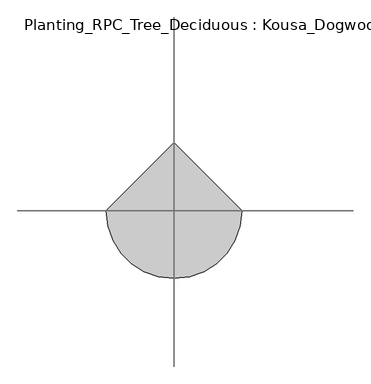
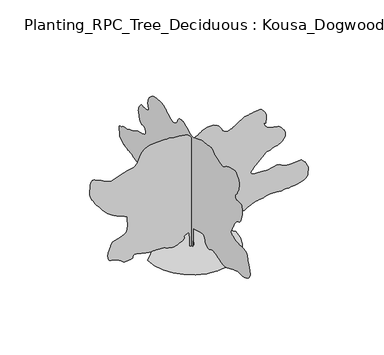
"""IFC4 building model written with IfcOpenShell, lengths in millimetres: geographic element geometry, Planting_RPC_Tree_Deciduous : Kousa_Dogwood-3.0_Meters."""

from ifc_helpers import new_model, si_unit, origin, place, context, project, spatial, triangles, source, transform, mapped, element, save


def planting_rpc_tree_deciduous_kousa_dogwood_3_0_meters_e0625334(model_context):
    return source(origin(), model_context, "Body", "Tessellation", [
        triangles([(0.0321152, 48.5607305, 0.0034119), (0.0321152, -50.059231, 0.0034119), (0.0321152, -56.2224767, 326.6823853), (0.0321152, -56.2224767, 468.4473149), (0.0321152, -179.4974194, 505.4297959), (0.0321152, -382.8998477, 573.2297636), (0.0321152, -481.5198092, 585.5572815), (0.0321152, -493.3798047, 574.9372539), (0.0321152, -505.079781, 563.9947895), (0.0321152, -516.4547771, 552.4022922), (0.0321152, -527.3447737, 539.8422667), (0.0321152, -537.5872808, 525.9872984), (0.0321152, -547.022279, 510.5148053), (0.0321152, -555.4847712, 493.1023144), (0.0321152, -561.4697619, 475.007307), (0.0321152, -564.8647582, 457.7723125), (0.0321152, -567.614772, 441.509824), (0.0321152, -571.6572578, 426.3248134), (0.0321152, -578.9372641, 412.3273393), (0.0321152, -591.3897743, 399.6223372), (0.0321152, -610.9597281, 388.3173586), (0.0321152, -633.9972754, 377.894848), (0.0321152, -655.6322193, 368.3348574), (0.0321152, -675.9747276, 360.4998705), (0.0321152, -695.1297358, 355.2548418), (0.0321152, -713.2071934, 353.4573498), (0.0321152, -730.3171955, 355.9723489), (0.0321152, -746.5597361, 363.6648663), (0.0321152, -762.949724, 373.6898357), (0.0321152, -780.3097109, 382.7473497), (0.0321152, -798.4772066, 390.9973549), (0.0321152, -817.2921919, 398.597327), (0.0321152, -836.5896332, 405.7148432), (0.0321152, -856.2146708, 412.5073428), (0.0321152, -875.999655, 419.137316), (0.0321152, -993.1095852, 400.6448401), (0.0321152, -1024.8096125, 390.0973372), (0.0321152, -1056.5095671, 379.6573494), (0.0321152, -1088.2070509, 369.4323558), (0.0321152, -1119.9070782, 359.5298716), (0.0321152, -1151.6070328, 350.0598464), (0.0321152, -1183.3045166, 341.1298682), (0.0321152, -1215.0045439, 332.8448725), (0.0321152, -1247.7819763, 324.7573574), (0.0321152, -1282.4994793, 317.2098893), (0.0321152, -1318.8344707, 311.4973746), (0.0321152, -1356.4644413, 308.9098872), (0.0321152, -1395.0644108, 310.7423698), (0.0321152, -1434.3118698, 318.2898743), (0.0321152, -1473.8818382, 332.8448725), (0.0321152, -1769.7418316, 456.1198334), (0.0321152, -1791.6092468, 465.9673064), (0.0321152, -1811.1067486, 474.5198004), (0.0321152, -1830.3892925, 481.9973236), (0.0321152, -1851.611689, 488.6098197), (0.0321152, -1876.9318005, 494.5747899), (0.0321152, -1908.5067627, 500.1098082), (0.0321152, -1948.4892059, 505.4297959), (0.0321152, -1993.2716469, 509.077284), (0.0321152, -2037.2967213, 510.4597941), (0.0321152, -2079.8141842, 511.0898066), (0.0321152, -2120.0666691, 512.4747874), (0.0321152, -2157.3016056, 516.1222755), (0.0321152, -2190.7616272, 523.5422805), (0.0321152, -2219.6915474, 536.2472826), (0.0321152, -2247.0266521, 550.8047879), (0.0321152, -2275.3291397, 563.6347824), (0.0321152, -2303.3066471, 576.0347523), (0.0321152, -2329.6691368, 589.2947714), (0.0321152, -2353.1216297, 604.7147604), (0.0321152, -2372.3665306, 623.5822861), (0.0321152, -2386.1140926, 647.1947256), (0.0321152, -2397.2190834, 669.6572353), (0.0321152, -2408.5415028, 686.5147093), (0.0321152, -2418.7840462, 701.2122133), (0.0321152, -2426.65406, 717.2072399), (0.0321152, -2430.8590359, 737.9447096), (0.0321152, -2430.1039948, 766.8771732), (0.0321152, -2423.0965736, 807.4521675), (0.0321152, -2412.5114639, 849.5371714), (0.0321152, -2401.8190933, 882.9996637), (0.0321152, -2390.9114742, 911.2846378), (0.0321152, -2379.6814911, 937.8421011), (0.0321152, -2368.0191216, 966.1271479), (0.0321152, -2355.8165234, 999.5895676), (0.0321152, -2342.9690517, 1041.6745714), (0.0321152, -2331.7716248, 1086.8520464), (0.0321152, -2322.0866055, 1126.8520758), (0.0321152, -2310.1366081, 1161.0320389), (0.0321152, -2292.1490433, 1188.7420481), (0.0321152, -2264.3491413, 1209.3345411), (0.0321152, -2222.9641674, 1222.1644993), (0.0321152, -2164.2192066, 1226.5870491), (0.0321152, -2098.4666794, 1226.6770145), (0.0321152, -2038.2142525, 1227.3044472), (0.0321152, -1982.9192265, 1229.0120464), (0.0321152, -1932.0467503, 1232.3369888), (0.0321152, -1885.0542698, 1237.8170322), (0.0321152, -1841.4043179, 1245.9944401), (0.0321152, -1800.5592819, 1257.4044994), (0.0321152, -1760.9542866, 1269.0494282), (0.0321152, -1722.9643089, 1278.862056), (0.0321152, -1688.9643494, 1288.7794739), (0.0321152, -1661.3267921, 1300.7495281), (0.0321152, -1642.4218414, 1316.7069843), (0.0321152, -1634.6243523, 1338.5944565), (0.0321152, -1640.3019127, 1368.3519424), (0.0321152, -1650.8868771, 1395.324424), (0.0321152, -1657.8043327, 1411.2994663), (0.0321152, -1663.4292801, 1421.8844307), (0.0321152, -1670.131778, 1432.6844982), (0.0321152, -1680.2843559, 1449.3068848), (0.0321152, -1696.261869, 1477.3593876), (0.0321152, -1720.43176, 1522.4468971), (0.0321152, -1744.7792564, 1570.2993542), (0.0321152, -1762.0142509, 1605.6469059), (0.0321152, -1775.5817368, 1632.5843605), (0.0321152, -1788.931794, 1655.2092876), (0.0321152, -1805.5192989, 1677.6167862), (0.0321152, -1828.7892448, 1703.9067513), (0.0321152, -1862.1967987, 1738.1767525), (0.0321152, -1899.9867886, 1769.4617615), (0.0321152, -1934.3291691, 1788.456823), (0.0321152, -1965.5416534, 1801.7368263), (0.0321152, -1993.9516926, 1815.879277), (0.0321152, -2019.8841213, 1837.4618259), (0.0321152, -2043.6591236, 1873.0592171), (0.0321152, -2065.5992088, 1929.2517174), (0.0321152, -2083.3542297, 1999.8741508), (0.0321152, -2094.4241936, 2071.5741348), (0.0321152, -2098.9166519, 2140.1491642), (0.0321152, -2096.9391563, 2201.391647), (0.0321152, -2088.6017292, 2251.0966072), (0.0321152, -2074.0091606, 2285.0590691), (0.0321152, -2053.2716183, 2299.0765274), (0.0321152, -2028.7792179, 2300.9990845), (0.0321152, -2002.9916931, 2301.6291332), (0.0321152, -1976.1267632, 2301.1790154), (0.0321152, -1948.3992405, 2299.8665955), (0.0321152, -1920.0242283, 2297.9090115), (0.0321152, -1891.2193005, 2295.5190411), (0.0321152, -1862.1967987, 2292.9116421), (0.0321152, -1846.526825, 2300.944146), (0.0321152, -1831.9342564, 2309.6241394), (0.0321152, -1819.4992596, 2319.5991119), (0.0321152, -1810.2992397, 2331.5116116), (0.0321152, -1805.4117474, 2346.0140694), (0.0321152, -1805.914333, 2363.7490334), (0.0321152, -1812.8867271, 2385.36908), (0.0321152, -1823.1842091, 2405.136478), (0.0321152, -1833.371814, 2418.9715347), (0.0321152, -1844.1018276, 2430.0064716), (0.0321152, -1856.0143272, 2441.3640633), (0.0321152, -1869.7617439, 2456.1715897), (0.0321152, -1885.9892418, 2477.5540054), (0.0321152, -1905.3416943, 2508.6489098), (0.0321152, -1927.1592579, 2549.7490173), (0.0321152, -1948.5442898, 2597.4240143), (0.0321152, -1966.7992802, 2649.1990517), (0.0321152, -1979.2367477, 2702.5739914), (0.0321152, -1983.1542412, 2755.098983), (0.0321152, -1975.8567215, 2804.2988869), (0.0321152, -1954.6517658, 2847.6488571), (0.0321152, -1927.4992081, 2886.8737885), (0.0321152, -1902.7191799, 2923.7238647), (0.0321152, -1878.1542549, 2955.8489388), (0.0321152, -1851.6491867, 2980.8488663), (0.0321152, -1821.0442234, 2996.3487923), (0.0321152, -1784.1893509, 2999.9988602), (0.0321152, -1738.9217651, 2989.4239243), (0.0321152, -1692.8293751, 2973.9487061), (0.0321152, -1653.2043228, 2962.998793), (0.0321152, -1617.4618824, 2954.3237411), (0.0321152, -1583.0144211, 2945.6486893), (0.0321152, -1547.2718353, 2934.6987762), (0.0321152, -1507.6469284, 2919.2238487), (0.0321152, -1461.554393, 2896.9487549), (0.0321152, -1417.7968895, 2870.823896), (0.0321152, -1383.95942, 2846.4239319), (0.0321152, -1355.6194347, 2825.4737572), (0.0321152, -1328.3594707, 2809.698848), (0.0321152, -1297.7569782, 2800.8238083), (0.0321152, -1259.3920235, 2800.5738235), (0.0321152, -1208.841984, 2810.6737885), (0.0321152, -1151.1220333, 2827.7739075), (0.0321152, -1095.7745396, 2846.3989334), (0.0321152, -1045.1695616, 2864.9989609), (0.0321152, -1001.6820997, 2882.1237877), (0.0321152, -967.6821402, 2896.1988007), (0.0321152, -945.5421398, 2905.7737976), (0.0321152, -937.6370991, 2909.2738747), (0.0321152, -933.2696331, 2914.6738358), (0.0321152, -920.8171228, 2928.2738777), (0.0321152, -901.2471691, 2946.1489494), (0.0321152, -875.532169, 2964.4987015), (0.0321152, -844.642194, 2979.3736656), (0.0321152, -809.5471704, 2986.9237862), (0.0321152, -771.2146992, 2983.2487198), (0.0321152, -721.277195, 2972.4237991), (0.0321152, -656.2422112, 2961.4738861), (0.0321152, -584.4172711, 2951.0739395), (0.0321152, -514.0997972, 2941.8489212), (0.0321152, -453.5948058, 2934.47379), (0.0321152, -411.2023353, 2929.5487999), (0.0321152, -395.2273293, 2927.7739082), (0.0321152, -389.2073479, 2924.6238098), (0.0321152, -372.7298653, 2916.1987427), (0.0321152, -348.1648676, 2903.9989059), (0.0321152, -317.8848845, 2889.5489159), (0.0321152, -284.2623909, 2874.3239731), (0.0321152, -249.6706434, 2859.8489845), (0.0321152, -216.4799186, 2847.6488571), (0.0321152, -182.6961704, 2835.2237434), (0.0321152, -145.4621876, 2820.7737534), (0.0321152, -105.8562113, 2806.7237389), (0.0321152, -64.9562232, 2795.5988365), (0.0321152, -23.8407913, 2789.8738953), (0.0321152, 16.4121432, 2792.023764), (0.0321152, 54.724226, 2804.4988747), (0.0321152, 95.0672077, 2825.5987495), (0.0321152, 140.4776899, 2850.2489891), (0.0321152, 188.4756686, 2875.9988708), (0.0321152, 236.5816531, 2900.3238396), (0.0321152, 282.3148899, 2920.7737541), (0.0321152, 323.1973872, 2934.8487671), (0.0321152, 356.7473742, 2940.0987373), (0.0321152, 387.7448281, 2939.8987495), (0.0321152, 421.3323492, 2938.5238335), (0.0321152, 455.5648164, 2934.7737717), (0.0321152, 488.5048116, 2927.4489281), (0.0321152, 518.2072864, 2915.3987915), (0.0321152, 542.7372934, 2897.3987274), (0.0321152, 560.1497844, 2872.298806), (0.0321152, 571.7222611, 2845.0237267), (0.0321152, 581.032267, 2820.8737473), (0.0321152, 589.584761, 2799.1989075), (0.0321152, 598.8947668, 2779.3739548), (0.0321152, 610.4672436, 2760.6989319), (0.0321152, 625.8122372, 2742.5988739), (0.0321152, 646.4422279, 2724.3738235), (0.0321152, 671.2597538, 2707.0990059), (0.0321152, 697.802247, 2692.6490158), (0.0321152, 725.529697, 2681.5238228), (0.0321152, 753.9047092, 2674.2739746), (0.0321152, 782.3872004, 2671.4488564), (0.0321152, 810.4371597, 2673.5990158), (0.0321152, 837.5196636, 2681.2238411), (0.0321152, 865.1921751, 2693.0489914), (0.0321152, 895.1296646, 2707.1490028), (0.0321152, 926.9546116, 2723.1238998), (0.0321152, 960.2896408, 2740.598996), (0.0321152, 994.7570864, 2759.2240219), (0.0321152, 1029.9771023, 2778.5990021), (0.0321152, 1065.5771095, 2798.3489594), (0.0321152, 1088.2370636, 2814.0738716), (0.0321152, 1112.1370583, 2829.173822), (0.0321152, 1138.5170614, 2842.9738518), (0.0321152, 1168.617041, 2854.848999), (0.0321152, 1203.6770376, 2864.0987251), (0.0321152, 1244.9369465, 2870.1489372), (0.0321152, 1293.6344101, 2872.298806), (0.0321152, 1349.6844772, 2871.0988792), (0.0321152, 1409.9369041, 2867.1988266), (0.0321152, 1471.0519238, 2860.1739647), (0.0321152, 1529.689333, 2849.5987381), (0.0321152, 1582.5044231, 2835.0237556), (0.0321152, 1626.1519043, 2816.0237526), (0.0321152, 1657.2943348, 2792.1737549), (0.0321152, 1679.9917866, 2768.8240173), (0.0321152, 1700.7467697, 2750.1989914), (0.0321152, 1719.8842644, 2734.2738007), (0.0321152, 1737.7292507, 2718.9988609), (0.0321152, 1754.6017673, 2702.3240067), (0.0321152, 1770.8292652, 2682.1990723), (0.0321152, 1786.7342537, 2656.5738922), (0.0321152, 1800.3918503, 2627.8738998), (0.0321152, 1809.9517319, 2599.8238678), (0.0321152, 1815.8442501, 2572.2990944), (0.0321152, 1818.5042622, 2545.2240028), (0.0321152, 1818.361829, 2518.4738914), (0.0321152, 1815.8442501, 2491.9316162), (0.0321152, 1811.3892895, 2465.4966019), (0.0321152, 1804.2368191, 2441.5614349), (0.0321152, 1794.9292477, 2421.93647), (0.0321152, 1785.8343086, 2405.6565044), (0.0321152, 1779.3293278, 2391.7465977), (0.0321152, 1777.7842186, 2379.241547), (0.0321152, 1783.5718014, 2367.1640865), (0.0321152, 1799.0618443, 2354.5490135), (0.0321152, 1819.8892067, 2343.1016018), (0.0321152, 1840.3917343, 2334.6740639), (0.0321152, 1861.0042843, 2328.511504), (0.0321152, 1882.1543015, 2323.8565556), (0.0321152, 1904.2767883, 2319.9565029), (0.0321152, 1927.7991898, 2316.0565956), (0.0321152, 1953.1541828, 2311.404118), (0.0321152, 1979.1941631, 2310.0565258), (0.0321152, 2004.4766315, 2314.2065632), (0.0321152, 2029.006675, 2320.2990692), (0.0321152, 2052.7816772, 2324.7740868), (0.0321152, 2075.7991676, 2324.0715134), (0.0321152, 2098.064233, 2314.6390949), (0.0321152, 2119.5741119, 2292.9116421), (0.0321152, 2140.2241596, 2265.2015602), (0.0321152, 2159.4692059, 2239.5416439), (0.0321152, 2176.6665573, 2214.9591328), (0.0321152, 2191.1691605, 2190.4841732), (0.0321152, 2202.326619, 2165.1441502), (0.0321152, 2209.4966755, 2137.9741516), (0.0321152, 2212.0315498, 2107.9990917), (0.0321152, 2208.9766491, 2074.5041885), (0.0321152, 2200.421648, 2037.7741631), (0.0321152, 2187.286694, 1998.3467731), (0.0321152, 2170.4840858, 1956.7642822), (0.0321152, 2150.9316456, 1913.5643028), (0.0321152, 2129.5490845, 1869.2867729), (0.0321152, 2107.2466667, 1824.469305), (0.0321152, 2067.8742153, 1829.4092651), (0.0321152, 2030.0117008, 1832.3042919), (0.0321152, 1995.1692055, 1831.0992783), (0.0321152, 1964.8517246, 1823.7492908), (0.0321152, 1940.5742821, 1808.2067802), (0.0321152, 1923.8441986, 1782.4192554), (0.0321152, 1916.1717018, 1744.3393124), (0.0321152, 1917.9141827, 1705.0943241), (0.0321152, 1927.8516575, 1675.6593475), (0.0321152, 1945.1216789, 1653.7718754), (0.0321152, 1968.8591835, 1637.1667843), (0.0321152, 1998.2041946, 1623.5818577), (0.0321152, 2032.2941196, 1610.7493561), (0.0321152, 2070.2641857, 1596.4093884), (0.0321152, 2106.9241573, 1584.1719086), (0.0321152, 2139.3791531, 1577.001852), (0.0321152, 2170.2141895, 1571.6668579), (0.0321152, 2202.0215504, 1564.9268623), (0.0321152, 2237.3865429, 1553.5518299), (0.0321152, 2278.8966545, 1534.306929), (0.0321152, 2329.1415527, 1503.9544212), (0.0321152, 2383.0889866, 1471.1769161), (0.0321152, 2433.9089951, 1445.5168545), (0.0321152, 2481.4915558, 1425.0294422), (0.0321152, 2525.7240303, 1407.7794777), (0.0321152, 2566.5238655, 1391.8218761), (0.0321152, 2603.7489189, 1375.2169304), (0.0321152, 2637.3239044, 1356.0244972), (0.0321152, 2670.0739403, 1339.9419033), (0.0321152, 2704.5488708, 1331.5145107), (0.0321152, 2740.1990204, 1327.0745201), (0.0321152, 2776.4988396, 1322.9595097), (0.0321152, 2812.8989433, 1315.5019707), (0.0321152, 2848.8737823, 1301.0370106), (0.0321152, 2883.8739716, 1275.8969753), (0.0321152, 2917.2239708, 1253.1644966), (0.0321152, 2947.6738564, 1243.4770065), (0.0321152, 2973.7987152, 1239.5070454), (0.0321152, 2994.223922, 1233.9169796), (0.0321152, 3007.5236916, 1219.3794949), (0.0321152, 3012.2986908, 1188.5620445), (0.0321152, 3007.1487144, 1134.1295385), (0.0321152, 3000.7738129, 1075.6195925), (0.0321152, 2999.8988663, 1034.3596109), (0.0321152, 3000.198848, 1005.7171005), (0.0321152, 2997.3737297, 985.049612), (0.0321152, 2987.123774, 967.7271229), (0.0321152, 2965.0989555, 949.1096546), (0.0321152, 2927.023954, 924.5646412), (0.0321152, 2887.2487656, 900.7171143), (0.0321152, 2859.3237259, 885.497113), (0.0321152, 2837.74888, 876.2071278), (0.0321152, 2817.0489807, 870.1496487), (0.0321152, 2791.6987839, 864.6321802), (0.0321152, 2756.2489128, 856.9596834), (0.0321152, 2705.1238358, 844.4346485), (0.0321152, 2648.9490669, 832.3046476), (0.0321152, 2600.4988266, 825.8897049), (0.0321152, 2557.7991074, 822.6021875), (0.0321152, 2518.7488747, 819.8521374), (0.0321152, 2481.3116249, 815.0546831), (0.0321152, 2443.4491104, 805.6196486), (0.0321152, 2403.1065147, 788.9621624), (0.0321152, 2353.7965885, 769.6621777), (0.0321152, 2293.9216095, 753.8122004), (0.0321152, 2228.7616333, 741.0897211), (0.0321152, 2163.6016571, 731.1696871), (0.0321152, 2103.7266781, 723.7297342), (0.0321152, 2054.4166065, 718.4472078), (0.0321152, 2020.9567303, 714.9972004), (0.0321152, 1997.8292175, 712.9122259), (0.0321152, 1975.5641521, 711.1496881), (0.0321152, 1953.5141899, 708.5272465), (0.0321152, 1931.0341667, 703.8547119), (0.0321152, 1907.4742676, 695.9472004), (0.0321152, 1882.1917992, 683.6197552), (0.0321152, 1854.5343304, 665.6872015), (0.0321152, 1828.8017441, 646.4947683), (0.0321152, 1807.9217686, 629.8897499), (0.0321152, 1789.194278, 613.932221), (0.0321152, 1769.9317909, 596.6822565), (0.0321152, 1747.4318562, 576.1947716), (0.0321152, 1719.0043762, 550.5347826), (0.0321152, 1681.9493706, 517.7572775), (0.0321152, 1650.1068375, 485.9673211), (0.0321152, 1634.0068027, 462.6973025), (0.0321152, 1625.991885, 445.139835), (0.0321152, 1618.4068829, 430.494835), (0.0321152, 1603.6018272, 415.9573503), (0.0321152, 1573.9143951, 398.7223557), (0.0321152, 1521.691856, 375.9923478), (0.0321152, 1461.9594555, 353.7623457), (0.0321152, 1412.9019848, 338.5423808), (0.0321152, 1371.6069763, 328.2798532), (0.0321152, 1335.1644333, 320.9298657), (0.0321152, 1300.6620335, 314.4448691), (0.0321152, 1265.1894894, 306.7698652), (0.0321152, 1225.8344788, 295.8623733), (0.0321152, 1191.2045431, 285.4223855), (0.0321152, 1167.682069, 279.5098831), (0.0321152, 1149.0120604, 276.6173816), (0.0321152, 1128.939521, 275.2323825), (0.0321152, 1101.212071, 273.8498906), (0.0321152, 1059.5745689, 270.9573891), (0.0321152, 997.7746347, 265.0448866), (0.0321152, 934.502116, 258.197394), (0.0321152, 888.5896568, 253.2924063), (0.0321152, 853.9971462, 250.0024), (0.0321152, 824.687162, 248.0084084), (0.0321152, 794.6246801, 246.9841431), (0.0321152, 757.7671915, 246.6066589), (0.0321152, 708.0797447, 246.5526469), (0.0321152, 660.1722038, 246.9301493), (0.0321152, 628.2222645, 248.0621478), (0.0321152, 605.5422535, 249.9494054), (0.0321152, 585.4522734, 252.5899056), (0.0321152, 561.2647599, 255.9873908), (0.0321152, 526.2948014, 260.1373919), (0.0321152, 473.8573045, 265.0448866), (0.0321152, 415.5448391, 270.9923979), (0.0321152, 366.6123608, 277.9098899), (0.0321152, 325.8748764, 285.2598773), (0.0321152, 292.1448858, 292.5023858), (0.0321152, 264.237396, 299.0973866), (0.0321152, 240.9663963, 304.5073761), (0.0321152, 221.1454041, 308.189873), (0.0321152, 201.9351668, 312.0898893), (0.0321152, 181.431422, 318.2523766), (0.0321152, 159.8491819, 326.3048647), (0.0321152, 137.4046944, 335.8648553), (0.0321152, 114.3129534, 346.5573712), (0.0321152, 90.7902159, 358.0023485), (0.0321152, 67.0517212, 369.8273535), (0.0321152, 30.0694877, 314.3548674), (45.1947341, 0.000153, 0.0), (-47.2612322, 0.000153, 0.0), (-47.2612322, 0.0001391, 228.0581544), (-65.7527225, 0.0001298, 369.8248464), (-189.0271793, 0.0001344, 302.0223716), (-184.0854206, 0.0001344, 286.1373855), (-181.1921742, 0.0001391, 270.0348982), (-182.3961705, 0.0001391, 253.5048934), (-189.7459218, 0.0001391, 236.3244013), (-205.2901764, 0.0001391, 218.2824067), (-231.0771562, 0.0001391, 199.1621711), (-269.154901, 0.0001437, 178.7481737), (-307.0898675, 0.0001437, 161.1374391), (-333.3798689, 0.0001437, 149.5646898), (-351.4773471, 0.0001437, 142.5206975), (-364.827368, 0.0001437, 138.4951983), (-376.8873513, 0.0001437, 135.9796996), (-391.0998559, 0.0001437, 133.4636922), (-410.9223378, 0.0001437, 129.4384473), (-433.0423176, 0.0001437, 125.9342008), (-452.7923112, 0.0001437, 125.5566984), (-471.5697988, 0.0001437, 127.6594498), (-490.7798181, 0.0001437, 131.5946929), (-511.8222836, 0.0001437, 136.716446), (-536.1022696, 0.0001437, 142.3769472), (-565.0147854, 0.0001437, 147.9294426), (-591.0347815, 0.0001437, 153.8776896), (-608.6472602, 0.0001437, 160.7961808), (-622.2672501, 0.0001437, 168.1461864), (-636.3197353, 0.0001437, 175.3879319), (-655.2247587, 0.0001437, 181.9829327), (-683.4022539, 0.0001437, 187.391923), (-725.2722273, 0.0001437, 191.0756734), (-766.9621971, 0.0001437, 193.3399248), (-795.3921478, 0.0001437, 194.8491713), (-816.1646444, 0.0001437, 195.6044304), (-834.8896643, 0.0001437, 195.6039217), (-857.1721704, 0.0001437, 194.8494256), (-888.6196695, 0.0001437, 193.3399248), (-934.8395954, 0.0001437, 191.0756734), (-986.0895922, 0.0001437, 190.8779202), (-1030.1170647, 0.0001437, 194.7774279), (-1068.7520611, 0.0001391, 201.588422), (-1103.8295712, 0.0001391, 210.1239112), (-1137.1820412, 0.0001391, 219.1989205), (-1170.6420628, 0.0001391, 227.6269126), (-1206.044553, 0.0001391, 234.2219134), (-1242.1820274, 0.0001391, 241.0504028), (-1276.2694817, 0.0001391, 249.6041503), (-1307.7719193, 0.0001391, 257.8348979), (-1336.1469315, 0.0001391, 263.6923892), (-1360.854435, 0.0001391, 265.1298923), (-1381.3594334, 0.0001391, 260.0998941), (-1397.1193726, 0.0001391, 246.5491588), (-1406.1569023, 0.0001391, 228.8306545), (-1409.8044994, 0.0001391, 212.7294208), (-1412.4819523, 0.0001391, 198.3536631), (-1418.6094852, 0.0001437, 185.8104243), (-1432.6093575, 0.0001437, 175.208437), (-1458.8994678, 0.0001437, 166.6544352), (-1501.9019302, 0.0001437, 160.2571876), (-1547.4019146, 0.0001437, 155.854186), (-1580.6118061, 0.0001437, 153.71569), (-1605.086911, 0.0001437, 154.5966864), (-1624.3868958, 0.0001437, 159.2506901), (-1642.069392, 0.0001437, 168.4334327), (-1661.6918861, 0.0001437, 182.8994283), (-1686.8143353, 0.0001391, 203.4031732), (-1714.2017624, 0.0001391, 224.6974039), (-1739.1067829, 0.0001391, 241.6791617), (-1762.8268467, 0.0001391, 255.3198988), (-1786.6567875, 0.0001391, 266.5848907), (-1811.8867882, 0.0001344, 276.4523844), (-1839.8118279, 0.0001344, 285.8848937), (-1871.7267403, 0.0001344, 295.8598844), (-1904.1442383, 0.0001344, 304.2498701), (-1932.574189, 0.0001344, 310.1623907), (-1956.796693, 0.0001344, 316.3998734), (-1976.5992634, 0.0001344, 325.7623833), (-1991.7666515, 0.0001344, 341.0548728), (-2002.0817196, 0.0001298, 365.0798598), (-2007.3292191, 0.0001298, 400.642333), (-2009.4667339, 0.0001252, 439.4223424), (-2010.0966373, 0.0001252, 472.3798147), (-2008.4617081, 0.0001252, 501.2397901), (-2003.8067596, 0.0001205, 527.7272721), (-1995.3792217, 0.0001205, 553.5672647), (-1982.4217278, 0.0001205, 580.4872785), (-1964.1817074, 0.0001159, 610.2097738), (-1949.5917549, 0.0001159, 639.8072405), (-1944.056773, 0.0001113, 665.84475), (-1941.5391941, 0.0001113, 689.2946995), (-1936.0042122, 0.0001113, 711.1297039), (-1921.4142597, 0.0001113, 732.3172188), (-1891.7266823, 0.0001066, 753.8271704), (-1840.9068192, 0.0001066, 776.6297029), (-1777.9392963, 0.0001066, 797.8696856), (-1717.5618771, 0.0001066, 815.9846409), (-1662.3568165, 0.000102, 833.8821676), (-1614.9168343, 0.000102, 854.4771315), (-1577.8268017, 0.000102, 880.6771311), (-1553.6743515, 9.74e-05, 915.3946341), (-1545.0494419, 9.74e-05, 961.542108), (-1543.4319534, 9.27e-05, 1005.7846109), (-1539.6568932, 9.27e-05, 1036.2270842), (-1535.3443657, 8.81e-05, 1057.9345528), (-1532.1093887, 8.81e-05, 1075.9745853), (-1531.5719215, 8.81e-05, 1095.4195467), (-1535.3443657, 8.81e-05, 1121.3320639), (-1545.0494419, 8.34e-05, 1158.7820309), (-1552.0394222, 8.34e-05, 1197.3995138), (-1550.4043476, 7.88e-05, 1225.451944), (-1545.8569508, 7.88e-05, 1245.9544716), (-1544.1143246, 7.88e-05, 1261.9295139), (-1550.8893471, 7.88e-05, 1276.3969448), (-1571.894315, 7.42e-05, 1292.3719872), (-1612.8493732, 7.42e-05, 1312.8745148), (-1663.2192638, 7.42e-05, 1334.9595039), (-1709.3843239, 7.42e-05, 1354.4570057), (-1752.4218132, 6.95e-05, 1372.5544476), (-1793.4117531, 6.95e-05, 1390.4344608), (-1833.431694, 6.95e-05, 1409.284473), (-1873.5591866, 6.95e-05, 1430.2919117), (-1914.8717812, 6.49e-05, 1454.6418789), (-1954.7667297, 6.49e-05, 1480.589423), (-1990.9941696, 6.49e-05, 1506.7543957), (-2025.1742054, 6.03e-05, 1534.8593662), (-2058.9217094, 6.03e-05, 1566.6293747), (-2093.8541702, 5.56e-05, 1603.7917866), (-2131.5916924, 5.56e-05, 1648.0717873), (-2173.7491482, 5.1e-05, 1701.1893299), (-2212.079076, 5.1e-05, 1748.4168251), (-2239.6291386, 4.64e-05, 1778.6042267), (-2259.95159, 4.64e-05, 1798.8768265), (-2276.6091488, 4.64e-05, 1816.3417488), (-2293.1590107, 4.17e-05, 1838.1218147), (-2313.1615688, 4.17e-05, 1871.3317062), (-2340.1690773, 3.71e-05, 1923.0842159), (-2369.5866131, 3.71e-05, 1974.4617485), (-2394.369112, 3.25e-05, 2008.0467625), (-2414.404081, 3.25e-05, 2033.2241501), (-2429.5890553, 3.25e-05, 2059.3692112), (-2439.8141579, 2.78e-05, 2095.8666927), (-2444.9714012, 2.32e-05, 2152.0940746), (-2444.9539604, 1.85e-05, 2237.4340691), (-2440.4065636, 1.39e-05, 2329.0465004), (-2431.9790257, 9.3e-06, 2398.9865627), (-2419.5614697, 9.3e-06, 2448.9790054), (-2403.0464893, 4.6e-06, 2480.7488686), (-2382.3290039, 4.6e-06, 2496.024099), (-2357.2965202, 4.6e-06, 2496.5263939), (-2327.8441029, 4.6e-06, 2483.9841362), (-2296.1790298, 4.6e-06, 2467.2014397), (-2264.7315308, 4.6e-06, 2453.111602), (-2233.7165634, 9.3e-06, 2440.641433), (-2203.3466148, 9.3e-06, 2428.7090218), (-2173.8391136, 9.3e-06, 2416.2365273), (-2145.4116337, 9.3e-06, 2402.149015), (-2118.2766621, 9.3e-06, 2385.3639931), (-2092.0391647, 1.39e-05, 2368.6715527), (-2066.1266476, 1.39e-05, 2355.2116184), (-2040.4841721, 1.39e-05, 2344.4465778), (-2015.0566544, 1.39e-05, 2335.839109), (-1989.789156, 1.39e-05, 2328.8491287), (-1964.6316799, 1.39e-05, 2322.9365536), (-1939.5292877, 1.39e-05, 2317.5640617), (-1655.9942688, 9.3e-06, 2416.1840595), (-1606.9367981, 9.3e-06, 2430.3440964), (-1556.3693905, 9.3e-06, 2441.9166458), (-1506.5568787, 4.6e-06, 2452.0863739), (-1459.7619152, 4.6e-06, 2462.0439056), (-1418.2519489, 4.6e-06, 2472.9691109), (-1384.2894871, 4.6e-06, 2486.0514519), (-1360.1368916, 4.6e-06, 2502.473996), (-1342.0595066, 4.6e-06, 2521.7239838), (-1324.9519753, 0.0, 2542.47388), (-1309.029546, 0.0, 2564.7489738), (-1294.509502, 0.0, 2588.5239761), (-1281.6069466, -4.6e-06, 2613.7988869), (-1270.5394535, -4.6e-06, 2640.5989952), (-1261.5170391, -4.6e-06, 2668.899012), (-1252.17197, -9.3e-06, 2697.4990105), (-1240.346965, -9.3e-06, 2724.7737991), (-1226.5819622, -9.3e-06, 2750.2489883), (-1211.4170448, -1.39e-05, 2773.3490318), (-1195.3869913, -1.39e-05, 2793.5239632), (-1179.0345011, -1.39e-05, 2810.2488144), (-1162.8970413, -1.39e-05, 2822.9989082), (-1145.3595217, -1.39e-05, 2835.8739944), (-1123.7220343, -1.85e-05, 2852.0988762), (-1096.9120428, -1.85e-05, 2869.7239632), (-1063.8470552, -1.85e-05, 2886.8237915), (-1023.4495937, -1.85e-05, 2901.4237724), (-974.6421078, -1.85e-05, 2911.6237312), (-916.3471195, -1.85e-05, 2915.4487885), (-850.4696726, -1.85e-05, 2916.7487091), (-781.7871643, -2.32e-05, 2919.7488167), (-713.5371878, -2.32e-05, 2923.1988968), (-648.9522491, -2.32e-05, 2925.7987381), (-591.2697598, -2.32e-05, 2926.2237122), (-543.7197916, -2.32e-05, 2923.1988968), (-509.5422993, -1.85e-05, 2915.4487885), (-481.004797, -1.85e-05, 2906.6237457), (-448.8023294, -1.85e-05, 2900.6988167), (-413.797344, -1.85e-05, 2896.848761), (-376.8498536, -1.85e-05, 2894.1739243), (-338.824849, -1.85e-05, 2891.823777), (-300.5848866, -1.85e-05, 2888.923954), (-262.9923956, -1.85e-05, 2884.6239258), (-225.8116528, -1.85e-05, 2879.5489449), (-188.9551815, -1.85e-05, 2874.2739761), (-153.5001872, -1.85e-05, 2867.79879), (-120.5252014, -1.85e-05, 2859.173735), (-91.1082107, -1.85e-05, 2847.4238708), (-66.327474, -1.39e-05, 2831.5739662), (-47.2612322, -1.39e-05, 2810.6737885), (-31.5194878, -1.39e-05, 2787.7240265), (-16.4247435, -1.39e-05, 2766.8488472), (-2.6237239, -9.3e-06, 2748.5488014), (9.2364712, -9.3e-06, 2733.3988541), (18.5090174, -9.3e-06, 2721.8989746), (24.5469392, -9.3e-06, 2714.5988388), (26.7032393, -9.3e-06, 2712.0489944), (32.9569863, -9.3e-06, 2714.1738647), (49.5612281, -9.3e-06, 2720.0987938), (73.2819686, -9.3e-06, 2729.0238304), (100.8839584, -9.3e-06, 2740.2240189), (129.1329518, -9.3e-06, 2752.9238251), (154.7941853, -1.39e-05, 2766.3738762), (174.6331814, -1.39e-05, 2779.8489258), (195.6221801, -1.39e-05, 2795.3488518), (224.805664, -1.39e-05, 2814.0988701), (259.0573887, -1.39e-05, 2834.0238167), (295.2473854, -1.85e-05, 2853.0988152), (330.2548779, -1.85e-05, 2869.2489922), (360.9473722, -1.85e-05, 2880.4488899), (384.199841, -1.85e-05, 2884.6239258), (532.1298014, -1.85e-05, 2878.4737198), (558.4372799, -1.85e-05, 2865.2489456), (584.099776, -1.85e-05, 2851.8988884), (608.4672566, -1.39e-05, 2838.3488434), (630.8922323, -1.39e-05, 2824.4738182), (650.7322277, -1.39e-05, 2810.173819), (667.3372461, -1.39e-05, 2795.3238533), (680.0597254, -1.39e-05, 2779.8489258), (690.2672419, -1.39e-05, 2763.8240318), (699.8271961, -9.3e-06, 2747.473867), (708.8472124, -9.3e-06, 2730.8490097), (717.4372404, -9.3e-06, 2713.9988754), (725.7022156, -9.3e-06, 2696.999041), (733.7547037, -4.6e-06, 2679.898922), (741.6971695, -4.6e-06, 2662.7238075), (758.8571686, -4.6e-06, 2650.9239464), (775.9646999, -4.6e-06, 2639.5990562), (792.9646797, -4.6e-06, 2629.2488159), (809.8021694, -4.6e-06, 2620.3490685), (826.4247013, -4.6e-06, 2613.3989113), (842.7771915, -4.6e-06, 2608.8738968), (858.8071724, 0.0, 2607.248996), (876.1296616, -4.6e-06, 2608.7739029), (896.2571394, -4.6e-06, 2613.2989174), (918.9721046, -4.6e-06, 2620.8490379), (944.0571287, -4.6e-06, 2631.3989754), (971.2995792, -4.6e-06, 2644.9990173), (1000.4845711, -4.6e-06, 2661.5988762), (1031.3920595, -4.6e-06, 2681.2238411), (1066.8120632, -9.3e-06, 2705.2988251), (1107.9445816, -9.3e-06, 2733.4738495), (1152.2045254, -1.39e-05, 2763.0487885), (1197.0045525, -1.39e-05, 2791.3488052), (1239.7545593, -1.39e-05, 2815.6487755), (1277.8695293, -1.39e-05, 2833.248864), (1308.7595043, -1.85e-05, 2841.4739433), (1336.0744068, -1.85e-05, 2844.673748), (1365.0069431, -1.85e-05, 2848.8237854), (1395.2869263, -1.85e-05, 2853.773774), (1426.6444599, -1.85e-05, 2859.3737228), (1458.8093571, -1.85e-05, 2865.4739319), (1491.5143375, -1.85e-05, 2871.8738319), (1524.4918304, -1.85e-05, 2878.4737198), (1554.751902, -1.85e-05, 2882.298777), (1584.3143417, -1.85e-05, 2885.2988846), (1612.4719254, -1.85e-05, 2886.7237976), (1638.5293465, -1.85e-05, 2885.6988602), (1661.7818516, -1.85e-05, 2881.4238304), (1681.5318089, -1.85e-05, 2873.1237556), (1697.0743195, -1.85e-05, 2859.9739769), (1712.241853, -1.85e-05, 2841.9739128), (1730.1042801, -1.39e-05, 2820.0737961), (1748.8292999, -1.39e-05, 2794.9488762), (1766.5843208, -1.39e-05, 2767.2488228), (1781.5342804, -9.3e-06, 2737.5988884), (1791.8493484, -9.3e-06, 2706.6490334), (1795.6943172, -4.6e-06, 2675.0489273), (1795.1568501, -4.6e-06, 2644.7990295), (1793.6467678, -4.6e-06, 2617.1239746), (1791.3268513, 0.0, 2591.5990791), (1788.3617706, 0.0, 2567.8240768), (1784.9118359, 0.0, 2545.3239967), (1781.1392464, 4.6e-06, 2523.6738647), (1777.2043121, 4.6e-06, 2502.473996), (1764.1943504, 4.6e-06, 2507.4989799), (1752.3693455, 4.6e-06, 2511.0240555), (1742.9168701, 4.6e-06, 2511.524025), (1737.0217358, 4.6e-06, 2507.4989799), (1735.871806, 4.6e-06, 2497.4440704), (1740.6517467, 4.6e-06, 2479.8340988), (1752.5492764, 4.6e-06, 2453.1665405), (1769.3142414, 9.3e-06, 2424.4140804), (1787.0518215, 9.3e-06, 2401.2689816), (1804.4642761, 9.3e-06, 2383.2990028), (1820.2592422, 1.39e-05, 2370.0716125), (1833.1442116, 1.39e-05, 2361.1590752), (1841.824205, 1.39e-05, 2356.1265335), (1845.0042435, 1.39e-05, 2354.5465427), (1974.4441624, 1.39e-05, 2323.7266216), (2073.0641602, 1.39e-05, 2305.2366165), (2122.3740864, 1.85e-05, 2280.5815807), (2149.9216782, 1.85e-05, 2248.9715916), (2176.3366356, 2.32e-05, 2217.9015404), (2200.4890858, 2.32e-05, 2187.909185), (2221.2440689, 2.32e-05, 2159.5341728), (2237.4715668, 2.78e-05, 2133.3165871), (2248.0366196, 2.78e-05, 2109.7941856), (2251.8115345, 2.78e-05, 2089.5066158), (2251.524052, 2.78e-05, 2068.1941086), (2249.5115295, 3.25e-05, 2042.0291359), (2244.0490723, 3.25e-05, 2012.1991253), (2233.4116402, 3.71e-05, 1979.8891788), (2215.8715771, 3.71e-05, 1946.2842533), (2189.7066044, 3.71e-05, 1912.5717762), (2153.1916821, 4.17e-05, 1879.9393204), (2114.681678, 4.17e-05, 1854.7792282), (2082.1016899, 4.17e-05, 1840.1892757), (2053.0791882, 4.17e-05, 1832.3893158), (2025.2442593, 4.64e-05, 1827.6092297), (1996.2217575, 4.64e-05, 1822.0742477), (1963.6442402, 4.64e-05, 1812.0117805), (1925.1342361, 4.64e-05, 1793.6467678), (1889.0317886, 4.64e-05, 1776.5918495), (1862.7418236, 4.64e-05, 1769.6742485), (1842.4892807, 4.64e-05, 1767.9317677), (1824.5017159, 4.64e-05, 1766.4042446), (1805.0042141, 4.64e-05, 1760.1318077), (1780.2218605, 5.1e-05, 1744.1567654), (1746.3842457, 5.1e-05, 1713.5167751), (1481.3444641, 6.49e-05, 1460.8044388), (1461.8818439, 6.95e-05, 1433.2019085), (1444.5244732, 6.95e-05, 1406.4095032), (1431.3694622, 6.95e-05, 1381.234441), (1424.5243858, 7.42e-05, 1358.4819054), (1426.0869358, 7.42e-05, 1338.9669628), (1438.1619255, 7.42e-05, 1323.4945061), (1462.854459, 7.42e-05, 1312.8745148), (1495.0193562, 7.42e-05, 1306.9819965), (1528.4793777, 7.42e-05, 1304.2144329), (1563.7743164, 7.42e-05, 1303.1719093), (1601.4393139, 7.42e-05, 1302.4520405), (1642.0143082, 7.42e-05, 1300.6544758), (1686.0418533, 7.42e-05, 1296.379446), (1734.0568005, 7.42e-05, 1288.219479), (1788.6517239, 7.42e-05, 1285.9745579), (1850.0367851, 7.42e-05, 1295.9120327), (1915.1967613, 7.42e-05, 1311.3469917), (1981.1091625, 7.42e-05, 1325.596994), (2044.7592018, 7.42e-05, 1331.9769825), (2103.1267147, 7.42e-05, 1323.8019001), (2153.1916821, 7.42e-05, 1294.3845097), (2211.5940765, 7.88e-05, 1263.4945347), (2290.5915802, 7.88e-05, 1251.039481), (2380.5840523, 7.88e-05, 1250.5544815), (2471.979055, 7.88e-05, 1255.569437), (2555.1739769, 7.88e-05, 1259.6120682), (2620.5990532, 7.88e-05, 1256.2144558), (2658.6240578, 7.88e-05, 1238.9095528), (2678.2990196, 7.88e-05, 1215.9270166), (2695.2738556, 8.34e-05, 1198.4420374), (2709.8738365, 8.34e-05, 1184.4069929), (2722.448941, 8.34e-05, 1171.7745518), (2733.2738617, 8.34e-05, 1158.4945484), (2742.7238663, 8.34e-05, 1142.5195787), (2751.073938, 8.81e-05, 1121.7995499), (2759.9239792, 8.81e-05, 1100.8995901), (2769.8739532, 8.81e-05, 1083.6670664), (2779.6989349, 8.81e-05, 1066.9720825), (2788.223996, 9.27e-05, 1047.6896112), (2794.2989159, 9.27e-05, 1022.6946253), (2796.6737709, 9.27e-05, 988.8570831), (2794.2239204, 9.74e-05, 943.0521029), (2791.0988205, 0.000102, 894.8196545), (2788.9739502, 0.000102, 854.5671696), (2782.7487488, 0.000102, 820.4596584), (2767.3238182, 0.0001066, 790.6646748), (2737.6988823, 0.0001066, 763.3496996), (2688.7739616, 0.0001113, 736.682214), (2615.4740753, 0.0001113, 708.8296989), (2533.8991127, 0.0001113, 685.0372559), (2461.6840439, 0.0001113, 670.1947025), (2396.1640606, 0.0001159, 661.9272566), (2334.6365662, 0.0001159, 657.8672573), (2274.3991093, 0.0001159, 655.6372335), (2212.7615925, 0.0001159, 652.8697426), (2147.0266514, 0.0001159, 647.1922548), (2085.8042255, 0.0001159, 644.2622738), (2036.1167061, 0.0001159, 648.6647667), (1992.8966698, 0.0001159, 656.4097155), (1951.0817802, 0.0001113, 663.5097181), (1905.5992367, 0.0001113, 665.9697424), (1851.3842319, 0.0001159, 659.8072552), (1783.3667267, 0.0001159, 641.0272242), (1715.8542778, 0.0001159, 620.4522446), (1663.6517956, 0.0001159, 609.257252), (1622.4442818, 0.0001159, 603.9922754), (1587.9242958, 0.0001159, 601.207271), (1555.7768394, 0.0001159, 597.4497605), (1521.6869144, 0.0001159, 589.2747508), (1481.3444641, 0.0001205, 573.2272565), (1443.3569572, 0.0001205, 555.5272831), (1416.689399, 0.0001205, 543.3247939), (1397.5668743, 0.0001205, 534.5747829), (1382.2218807, 0.0001205, 527.2247955), (1366.8744164, 0.0001205, 519.2272822), (1347.7545078, 0.0001205, 508.5348026), (1321.0869495, 0.0001252, 493.0998073), (1295.0670261, 0.0001252, 477.717316), (1277.4570545, 0.0001252, 467.4023206), (1263.8344849, 0.0001252, 460.4298174), (1249.7819996, 0.0001252, 455.0748027), (1230.8770489, 0.0001252, 449.6123091), (1202.6995537, 0.0001252, 442.3148257), (1160.8295076, 0.0001252, 431.4623268), (895.7896534, 0.0001298, 382.1523643), (840.1546772, 0.0001298, 368.7823591), (796.3796602, 0.0001298, 359.7248451), (758.9647202, 0.0001298, 354.0098597), (722.4146982, 0.0001344, 350.6673675), (681.2272413, 0.0001344, 348.7273696), (629.9047199, 0.0001344, 347.21736), (562.947288, 0.0001344, 345.1698469), (488.7672956, 0.0001344, 343.2448554), (420.0873307, 0.0001344, 342.6173501), (357.874849, 0.0001344, 343.067359), (303.0998857, 0.0001344, 344.3773444), (256.7373995, 0.0001344, 346.3373629), (219.7556634, 0.0001344, 348.7273696), (193.1239314, 0.0001344, 351.3323705), (172.5304391, 0.0001298, 355.5923575), (152.907182, 0.0001298, 362.7623414), (134.092442, 0.0001298, 372.3573589), (115.924701, 0.0001298, 383.8948451), (98.2422138, 0.0001298, 396.8873297), (80.8829718, 0.0001298, 410.8498495), (63.6857248, 0.0001298, 425.2973325), (39.0307344, 0.0001252, 505.4247817), (26.7032393, 0.0001344, 289.69489), (-1057.7445934, 0.0, 0.0031152), (-1029.7795853, -242.364912, 0.0031152), (-950.1421497, -464.9373184, 0.0031152), (-825.2021742, -661.344734, 0.0031152), (-661.344734, -825.204645, 0.0031152), (-464.9373184, -950.1421497, 0.0031152), (-242.364912, -1029.7795853, 0.0031152), (4.62e-05, -1057.7445934, 0.0031152), (242.3651482, -1029.7795853, 0.0031152), (464.9373184, -950.1421497, 0.0031152), (661.344734, -825.2021742, 0.0031152), (825.204645, -661.344734, 0.0031152), (950.1421497, -464.9373184, 0.0031152), (1029.7795853, -242.364912, 0.0031152), (1057.7445934, 9.27e-05, 0.0031152), (-0.0001387, 1057.7445934, 0.0031152)], [[451, 1, 2], [451, 2, 3], [451, 3, 4], [450, 451, 4], [316, 317, 318], [316, 318, 319], [315, 316, 319], [356, 357, 358], [355, 356, 358], [354, 355, 358], [354, 358, 359], [353, 354, 359], [353, 359, 360], [133, 134, 135], [133, 135, 136], [132, 133, 136], [132, 136, 137], [132, 137, 138], [131, 132, 138], [131, 138, 139], [131, 139, 140], [130, 131, 140], [130, 140, 141], [130, 141, 142], [129, 130, 142], [128, 129, 142], [127, 128, 142], [126, 127, 142], [125, 126, 142], [124, 125, 142], [123, 124, 142], [122, 123, 142], [122, 142, 143], [121, 122, 143], [121, 143, 144], [121, 144, 145], [120, 121, 145], [119, 120, 145], [119, 145, 146], [118, 119, 146], [315, 319, 320], [314, 315, 320], [313, 314, 320], [312, 313, 320], [311, 312, 320], [310, 311, 320], [309, 310, 320], [308, 309, 320], [307, 308, 320], [306, 307, 320], [305, 306, 320], [304, 305, 320], [304, 320, 321], [303, 304, 321], [302, 303, 321], [301, 302, 321], [300, 301, 321], [299, 300, 321], [298, 299, 321], [297, 298, 321], [296, 297, 321], [295, 296, 321], [294, 295, 321], [293, 294, 321], [292, 293, 321], [292, 321, 322], [291, 292, 322], [290, 291, 322], [289, 290, 322], [289, 322, 323], [288, 289, 323], [352, 353, 360], [352, 360, 361], [117, 118, 146], [351, 352, 361], [350, 351, 361], [349, 350, 361], [348, 349, 361], [347, 348, 361], [347, 361, 362], [347, 362, 363], [347, 363, 364], [347, 364, 365], [347, 365, 366], [347, 366, 367], [347, 367, 368], [347, 368, 369], [347, 369, 370], [347, 370, 371], [347, 371, 372], [347, 372, 373], [347, 373, 374], [346, 347, 374], [346, 374, 375], [346, 375, 376], [345, 346, 376], [345, 376, 377], [344, 345, 377], [343, 344, 377], [343, 377, 378], [342, 343, 378], [341, 342, 378], [341, 378, 379], [340, 341, 379], [340, 379, 380], [340, 380, 381], [339, 340, 381], [339, 381, 382], [339, 382, 383], [338, 339, 383], [338, 383, 384], [337, 338, 384], [337, 384, 385], [336, 337, 385], [335, 336, 385], [334, 335, 385], [333, 334, 385], [333, 385, 386], [332, 333, 386], [332, 386, 387], [332, 387, 388], [331, 332, 388], [331, 388, 389], [331, 389, 390], [330, 331, 390], [329, 330, 390], [329, 390, 391], [328, 329, 391], [328, 391, 392], [328, 392, 393], [327, 328, 393], [327, 393, 394], [327, 394, 395], [327, 395, 396], [326, 327, 396], [326, 396, 397], [326, 397, 398], [326, 398, 399], [326, 399, 400], [326, 400, 401], [326, 401, 402], [325, 326, 402], [288, 323, 324], [116, 117, 146], [116, 146, 147], [115, 116, 147], [114, 115, 147], [113, 114, 147], [112, 113, 147], [111, 112, 147], [110, 111, 147], [325, 402, 403], [204, 205, 206], [167, 168, 169], [167, 169, 170], [166, 167, 170], [165, 166, 170], [165, 170, 171], [164, 165, 171], [164, 171, 172], [163, 164, 172], [162, 163, 172], [161, 162, 172], [160, 161, 172], [159, 160, 172], [158, 159, 172], [158, 172, 173], [157, 158, 173], [157, 173, 174], [156, 157, 174], [156, 174, 175], [155, 156, 175], [155, 175, 176], [154, 155, 176], [153, 154, 176], [152, 153, 176], [152, 176, 177], [151, 152, 177], [151, 177, 178], [151, 178, 179], [150, 151, 179], [150, 179, 180], [149, 150, 180], [149, 180, 181], [148, 149, 181], [148, 181, 182], [147, 148, 182], [110, 147, 182], [110, 182, 183], [110, 183, 184], [110, 184, 185], [110, 185, 186], [109, 110, 186], [109, 186, 187], [108, 109, 187], [108, 187, 188], [107, 108, 188], [107, 188, 189], [107, 189, 190], [107, 190, 191], [106, 107, 191], [89, 90, 91], [89, 91, 92], [88, 89, 92], [88, 92, 93], [87, 88, 93], [87, 93, 94], [86, 87, 94], [86, 94, 95], [85, 86, 95], [84, 85, 95], [84, 95, 96], [83, 84, 96], [83, 96, 97], [82, 83, 97], [81, 82, 97], [80, 81, 97], [79, 80, 97], [78, 79, 97], [77, 78, 97], [76, 77, 97], [75, 76, 97], [74, 75, 97], [73, 74, 97], [72, 73, 97], [71, 72, 97], [70, 71, 97], [69, 70, 97], [68, 69, 97], [67, 68, 97], [66, 67, 97], [65, 66, 97], [64, 65, 97], [63, 64, 97], [62, 63, 97], [61, 62, 97], [60, 61, 97], [59, 60, 97], [58, 59, 97], [57, 58, 97], [57, 97, 98], [56, 57, 98], [56, 98, 99], [55, 56, 99], [55, 99, 100], [54, 55, 100], [54, 100, 101], [53, 54, 101], [53, 101, 102], [52, 53, 102], [51, 52, 102], [50, 51, 102], [50, 102, 103], [50, 103, 104], [50, 104, 105], [49, 50, 105], [48, 49, 105], [47, 48, 105], [46, 47, 105], [45, 46, 105], [44, 45, 105], [43, 44, 105], [42, 43, 105], [41, 42, 105], [40, 41, 105], [39, 40, 105], [38, 39, 105], [37, 38, 105], [36, 37, 105], [35, 36, 105], [35, 105, 106], [35, 106, 191], [34, 35, 191], [33, 34, 191], [32, 33, 191], [31, 32, 191], [30, 31, 191], [29, 30, 191], [28, 29, 191], [27, 28, 191], [26, 27, 191], [25, 26, 191], [24, 25, 191], [23, 24, 191], [22, 23, 191], [21, 22, 191], [20, 21, 191], [19, 20, 191], [18, 19, 191], [17, 18, 191], [16, 17, 191], [15, 16, 191], [14, 15, 191], [13, 14, 191], [12, 13, 191], [11, 12, 191], [10, 11, 191], [9, 10, 191], [8, 9, 191], [7, 8, 191], [6, 7, 191], [5, 6, 191], [5, 191, 192], [5, 192, 193], [5, 193, 194], [5, 194, 195], [5, 195, 196], [5, 196, 197], [5, 197, 198], [5, 198, 199], [5, 199, 200], [5, 200, 201], [5, 201, 202], [5, 202, 203], [5, 203, 204], [5, 204, 206], [5, 206, 207], [5, 207, 208], [5, 208, 209], [5, 209, 210], [5, 210, 211], [5, 211, 212], [5, 212, 213], [5, 213, 214], [5, 214, 215], [5, 215, 216], [5, 216, 217], [5, 217, 218], [4, 5, 218], [4, 218, 219], [4, 219, 220], [4, 220, 221], [4, 221, 222], [4, 222, 223], [4, 223, 224], [4, 224, 225], [4, 225, 226], [4, 226, 227], [4, 227, 228], [4, 228, 229], [4, 229, 230], [4, 230, 231], [4, 231, 232], [4, 232, 233], [4, 233, 234], [4, 234, 235], [4, 235, 236], [4, 236, 237], [4, 237, 238], [4, 238, 239], [4, 239, 240], [4, 240, 241], [4, 241, 242], [4, 242, 243], [4, 243, 244], [4, 244, 245], [450, 4, 245], [449, 450, 245], [448, 449, 245], [447, 448, 245], [446, 447, 245], [445, 446, 245], [444, 445, 245], [443, 444, 245], [442, 443, 245], [441, 442, 245], [440, 441, 245], [439, 440, 245], [438, 439, 245], [437, 438, 245], [436, 437, 245], [435, 436, 245], [434, 435, 245], [433, 434, 245], [432, 433, 245], [431, 432, 245], [430, 431, 245], [429, 430, 245], [428, 429, 245], [427, 428, 245], [426, 427, 245], [425, 426, 245], [424, 425, 245], [423, 424, 245], [422, 423, 245], [422, 245, 246], [421, 422, 246], [420, 421, 246], [419, 420, 246], [418, 419, 246], [417, 418, 246], [416, 417, 246], [415, 416, 246], [414, 415, 246], [413, 414, 246], [412, 413, 246], [411, 412, 246], [410, 411, 246], [409, 410, 246], [408, 409, 246], [407, 408, 246], [406, 407, 246], [405, 406, 246], [404, 405, 246], [403, 404, 246], [325, 403, 246], [324, 325, 246], [288, 324, 246], [288, 246, 247], [288, 247, 248], [288, 248, 249], [287, 288, 249], [287, 249, 250], [287, 250, 251], [287, 251, 252], [287, 252, 253], [287, 253, 254], [287, 254, 255], [287, 255, 256], [287, 256, 257], [287, 257, 258], [287, 258, 259], [287, 259, 260], [287, 260, 261], [287, 261, 262], [287, 262, 263], [286, 287, 263], [286, 263, 264], [286, 264, 265], [286, 265, 266], [286, 266, 267], [286, 267, 268], [286, 268, 269], [286, 269, 270], [285, 286, 270], [285, 270, 271], [285, 271, 272], [285, 272, 273], [285, 273, 274], [285, 274, 275], [285, 275, 276], [285, 276, 277], [285, 277, 278], [285, 278, 279], [285, 279, 280], [285, 280, 281], [285, 281, 282], [284, 285, 282], [284, 282, 283], [751, 752, 753], [906, 452, 453], [906, 453, 454], [906, 454, 455], [905, 906, 455], [751, 753, 754], [750, 751, 754], [750, 754, 755], [749, 750, 755], [600, 601, 602], [599, 600, 602], [599, 602, 603], [598, 599, 603], [598, 603, 604], [597, 598, 604], [597, 604, 605], [597, 605, 606], [596, 597, 606], [596, 606, 607], [596, 607, 608], [596, 608, 609], [595, 596, 609], [595, 609, 610], [595, 610, 611], [594, 595, 611], [593, 594, 611], [592, 593, 611], [591, 592, 611], [591, 611, 612], [590, 591, 612], [590, 612, 613], [589, 590, 613], [589, 613, 614], [589, 614, 615], [588, 589, 615], [588, 615, 616], [587, 588, 616], [586, 587, 616], [585, 586, 616], [584, 585, 616], [584, 616, 617], [583, 584, 617], [582, 583, 617], [581, 582, 617], [580, 581, 617], [580, 617, 618], [579, 580, 618], [578, 579, 618], [577, 578, 618], [576, 577, 618], [575, 576, 618], [574, 575, 618], [573, 574, 618], [572, 573, 618], [571, 572, 618], [570, 571, 618], [570, 618, 619], [569, 570, 619], [569, 619, 620], [569, 620, 621], [568, 569, 621], [568, 621, 622], [567, 568, 622], [567, 622, 623], [567, 623, 624], [566, 567, 624], [566, 624, 625], [566, 625, 626], [565, 566, 626], [903, 904, 905], [748, 749, 755], [565, 626, 627], [902, 903, 905], [508, 509, 510], [508, 510, 511], [507, 508, 511], [507, 511, 512], [506, 507, 512], [506, 512, 513], [505, 506, 513], [505, 513, 514], [505, 514, 515], [505, 515, 516], [505, 516, 517], [505, 517, 518], [505, 518, 519], [505, 519, 520], [505, 520, 521], [504, 505, 521], [504, 521, 522], [504, 522, 523], [747, 748, 755], [747, 755, 756], [565, 627, 628], [901, 902, 905], [900, 901, 905], [899, 900, 905], [898, 899, 905], [897, 898, 905], [896, 897, 905], [895, 896, 905], [894, 895, 905], [893, 894, 905], [892, 893, 905], [825, 826, 827], [824, 825, 827], [824, 827, 828], [823, 824, 828], [823, 828, 829], [823, 829, 830], [823, 830, 831], [823, 831, 832], [823, 832, 833], [823, 833, 834], [823, 834, 835], [822, 823, 835], [822, 835, 836], [822, 836, 837], [822, 837, 838], [822, 838, 839], [822, 839, 840], [822, 840, 841], [822, 841, 842], [822, 842, 843], [822, 843, 844], [822, 844, 845], [822, 845, 846], [822, 846, 847], [822, 847, 848], [822, 848, 849], [822, 849, 850], [821, 822, 850], [821, 850, 851], [821, 851, 852], [821, 852, 853], [820, 821, 853], [820, 853, 854], [820, 854, 855], [820, 855, 856], [820, 856, 857], [819, 820, 857], [819, 857, 858], [818, 819, 858], [817, 818, 858], [816, 817, 858], [815, 816, 858], [814, 815, 858], [814, 858, 859], [813, 814, 859], [813, 859, 860], [812, 813, 860], [812, 860, 861], [812, 861, 862], [811, 812, 862], [810, 811, 862], [810, 862, 863], [809, 810, 863], [809, 863, 864], [808, 809, 864], [808, 864, 865], [807, 808, 865], [807, 865, 866], [806, 807, 866], [806, 866, 867], [805, 806, 867], [805, 867, 868], [805, 868, 869], [804, 805, 869], [804, 869, 870], [804, 870, 871], [804, 871, 872], [804, 872, 873], [804, 873, 874], [804, 874, 875], [804, 875, 876], [804, 876, 877], [804, 877, 878], [804, 878, 879], [804, 879, 880], [804, 880, 881], [804, 881, 882], [804, 882, 883], [803, 804, 883], [803, 883, 884], [803, 884, 885], [803, 885, 886], [803, 886, 887], [803, 887, 888], [803, 888, 889], [803, 889, 890], [803, 890, 891], [802, 803, 891], [802, 891, 892], [802, 892, 905], [801, 802, 905], [800, 801, 905], [799, 800, 905], [688, 689, 690], [746, 747, 756], [905, 455, 456], [768, 769, 770], [767, 768, 770], [767, 770, 771], [767, 771, 772], [767, 772, 773], [767, 773, 774], [767, 774, 775], [767, 775, 776], [767, 776, 777], [767, 777, 778], [767, 778, 779], [767, 779, 780], [767, 780, 781], [767, 781, 782], [767, 782, 783], [767, 783, 784], [767, 784, 785], [767, 785, 786], [767, 786, 787], [767, 787, 788], [767, 788, 789], [766, 767, 789], [766, 789, 790], [766, 790, 791], [766, 791, 792], [766, 792, 793], [766, 793, 794], [766, 794, 795], [765, 766, 795], [764, 765, 795], [763, 764, 795], [763, 795, 796], [762, 763, 796], [761, 762, 796], [761, 796, 797], [761, 797, 798], [760, 761, 798], [759, 760, 798], [758, 759, 798], [757, 758, 798], [745, 746, 756], [744, 745, 756], [743, 744, 756], [742, 743, 756], [741, 742, 756], [740, 741, 756], [739, 740, 756], [738, 739, 756], [737, 738, 756], [736, 737, 756], [735, 736, 756], [734, 735, 756], [733, 734, 756], [732, 733, 756], [731, 732, 756], [730, 731, 756], [729, 730, 756], [728, 729, 756], [727, 728, 756], [726, 727, 756], [726, 756, 757], [726, 757, 798], [725, 726, 798], [724, 725, 798], [723, 724, 798], [722, 723, 798], [721, 722, 798], [720, 721, 798], [719, 720, 798], [718, 719, 798], [717, 718, 798], [716, 717, 798], [715, 716, 798], [714, 715, 798], [713, 714, 798], [712, 713, 798], [711, 712, 798], [710, 711, 798], [710, 798, 799], [710, 799, 905], [709, 710, 905], [708, 709, 905], [707, 708, 905], [706, 707, 905], [705, 706, 905], [704, 705, 905], [703, 704, 905], [702, 703, 905], [701, 702, 905], [700, 701, 905], [699, 700, 905], [698, 699, 905], [697, 698, 905], [696, 697, 905], [695, 696, 905], [694, 695, 905], [693, 694, 905], [692, 693, 905], [691, 692, 905], [690, 691, 905], [688, 690, 905], [687, 688, 905], [686, 687, 905], [685, 686, 905], [684, 685, 905], [683, 684, 905], [682, 683, 905], [681, 682, 905], [680, 681, 905], [679, 680, 905], [678, 679, 905], [677, 678, 905], [676, 677, 905], [675, 676, 905], [674, 675, 905], [674, 905, 456], [673, 674, 456], [672, 673, 456], [671, 672, 456], [670, 671, 456], [669, 670, 456], [668, 669, 456], [667, 668, 456], [666, 667, 456], [665, 666, 456], [664, 665, 456], [663, 664, 456], [662, 663, 456], [661, 662, 456], [660, 661, 456], [659, 660, 456], [658, 659, 456], [657, 658, 456], [656, 657, 456], [655, 656, 456], [654, 655, 456], [653, 654, 456], [652, 653, 456], [651, 652, 456], [650, 651, 456], [649, 650, 456], [648, 649, 456], [647, 648, 456], [646, 647, 456], [645, 646, 456], [644, 645, 456], [643, 644, 456], [642, 643, 456], [641, 642, 456], [640, 641, 456], [639, 640, 456], [638, 639, 456], [637, 638, 456], [636, 637, 456], [635, 636, 456], [634, 635, 456], [633, 634, 456], [632, 633, 456], [631, 632, 456], [630, 631, 456], [629, 630, 456], [628, 629, 456], [565, 628, 456], [564, 565, 456], [563, 564, 456], [562, 563, 456], [561, 562, 456], [560, 561, 456], [559, 560, 456], [558, 559, 456], [557, 558, 456], [556, 557, 456], [555, 556, 456], [554, 555, 456], [553, 554, 456], [552, 553, 456], [551, 552, 456], [551, 456, 457], [551, 457, 458], [551, 458, 459], [551, 459, 460], [551, 460, 461], [551, 461, 462], [551, 462, 463], [551, 463, 464], [551, 464, 465], [551, 465, 466], [551, 466, 467], [551, 467, 468], [551, 468, 469], [551, 469, 470], [551, 470, 471], [551, 471, 472], [551, 472, 473], [551, 473, 474], [551, 474, 475], [551, 475, 476], [551, 476, 477], [551, 477, 478], [551, 478, 479], [551, 479, 480], [551, 480, 481], [551, 481, 482], [551, 482, 483], [551, 483, 484], [551, 484, 485], [551, 485, 486], [551, 486, 487], [551, 487, 488], [551, 488, 489], [551, 489, 490], [551, 490, 491], [551, 491, 492], [551, 492, 493], [551, 493, 494], [551, 494, 495], [551, 495, 496], [551, 496, 497], [551, 497, 498], [551, 498, 499], [551, 499, 500], [551, 500, 501], [551, 501, 502], [551, 502, 503], [551, 503, 504], [551, 504, 523], [550, 551, 523], [549, 550, 523], [548, 549, 523], [548, 523, 524], [547, 548, 524], [547, 524, 525], [546, 547, 525], [545, 546, 525], [544, 545, 525], [543, 544, 525], [542, 543, 525], [541, 542, 525], [540, 541, 525], [540, 525, 526], [539, 540, 526], [538, 539, 526], [537, 538, 526], [536, 537, 526], [535, 536, 526], [534, 535, 526], [534, 526, 527], [533, 534, 527], [533, 527, 528], [532, 533, 528], [532, 528, 529], [531, 532, 529], [531, 529, 530], [921, 922, 907], [920, 921, 907], [920, 907, 908], [919, 920, 908], [919, 908, 909], [919, 909, 910], [918, 919, 910], [917, 918, 910], [917, 910, 911], [917, 911, 912], [917, 912, 913], [917, 913, 914], [917, 914, 915], [917, 915, 916]], closed=False),
    ])


if __name__ == "__main__":
    model = new_model("IFC4")
    model_context = context("Model", 3, world=origin())
    ifc_project = project(units=[si_unit("LENGTHUNIT", "METRE", prefix="MILLI")], contexts=[model_context])
    site = spatial("IfcSite", under=ifc_project)
    building = spatial("IfcBuilding", under=site)
    placement = place(None, origin())
    planting_rpc_tree_deciduous_kousa_dogwood_3_0_meters_shape = planting_rpc_tree_deciduous_kousa_dogwood_3_0_meters_e0625334(model_context)
    element("IfcGeographicElement", 1, ObjectType="Planting_RPC_Tree_Deciduous : Kousa_Dogwood-3.0_Meters", at=placement, inside=building, context=model_context, shape_type="MappedRepresentation", body=[
        mapped(planting_rpc_tree_deciduous_kousa_dogwood_3_0_meters_shape, transform((0.0, 0.0, 0.0), x_axis=(1.0, 0.0, 0.0), y_axis=(0.0, 1.0, 0.0), z_axis=(0.0, 0.0, 1.0))),
    ])
    save(model, "model.ifc")
